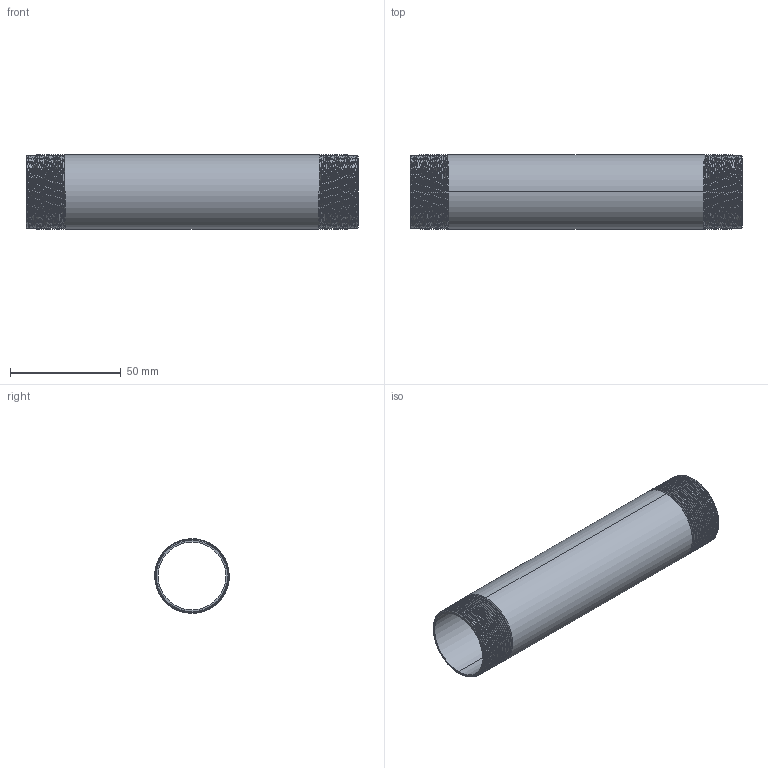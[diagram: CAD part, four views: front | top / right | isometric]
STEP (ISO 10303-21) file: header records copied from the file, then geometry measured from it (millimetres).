
FILE_DESCRIPTION (( 'STEP AP203' ), '1' );
FILE_NAME ('3D_R210_1x150_17185450.STEP', '2024-08-16T10:51:16', ( '' ), ( '' ), 'SwSTEP 2.0', 'SolidWorks 2024', '' );
FILE_SCHEMA (( 'CONFIG_CONTROL_DESIGN' ));
Length unit declared in the file: millimetre
Products named in the file (1): 3D_R210_1x150_17185450
Bounding box: 150 x 33.69 x 33.7 mm (x, y, z)
Volume: 21600.2 mm3; surface area: 32348 mm2
Topology: 1 solids, 1 shells, 88 faces, 250 edges, 164 vertices
Faces by surface type: cone 74, bspline 6, cylinder 4, plane 4
Entity records: 15477 total; most frequent: CARTESIAN_POINT 13431, ORIENTED_EDGE 500, DIRECTION 278, EDGE_CURVE 250, VERTEX_POINT 164, B_SPLINE_CURVE_WITH_KNOTS 144, AXIS2_PLACEMENT_3D 97, EDGE_LOOP 90
